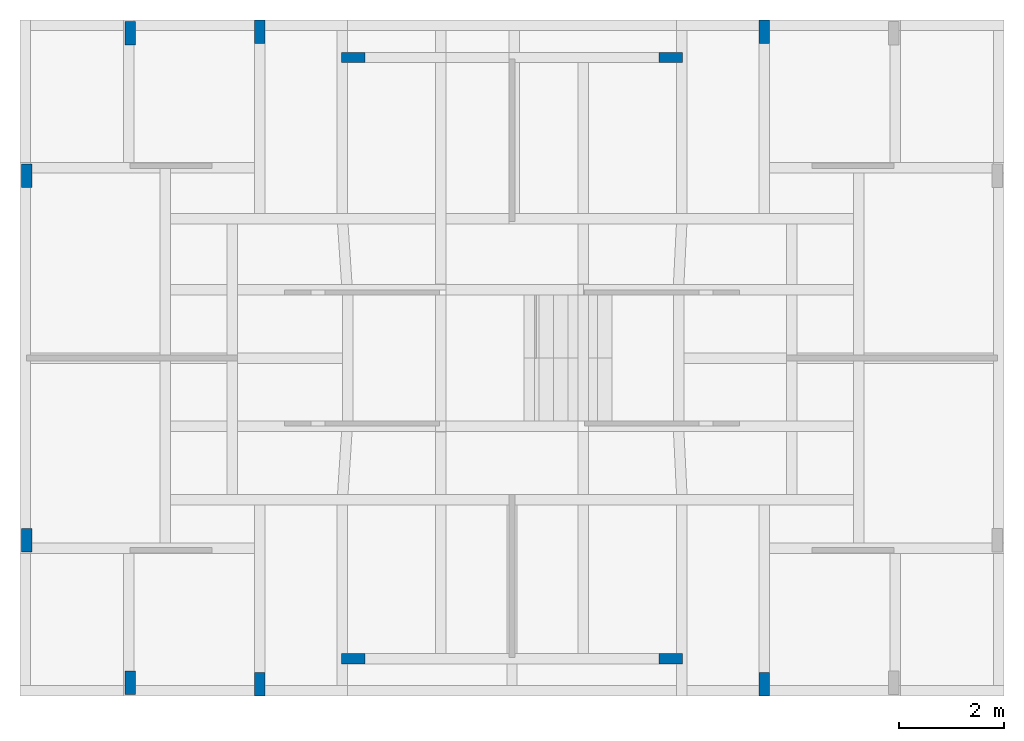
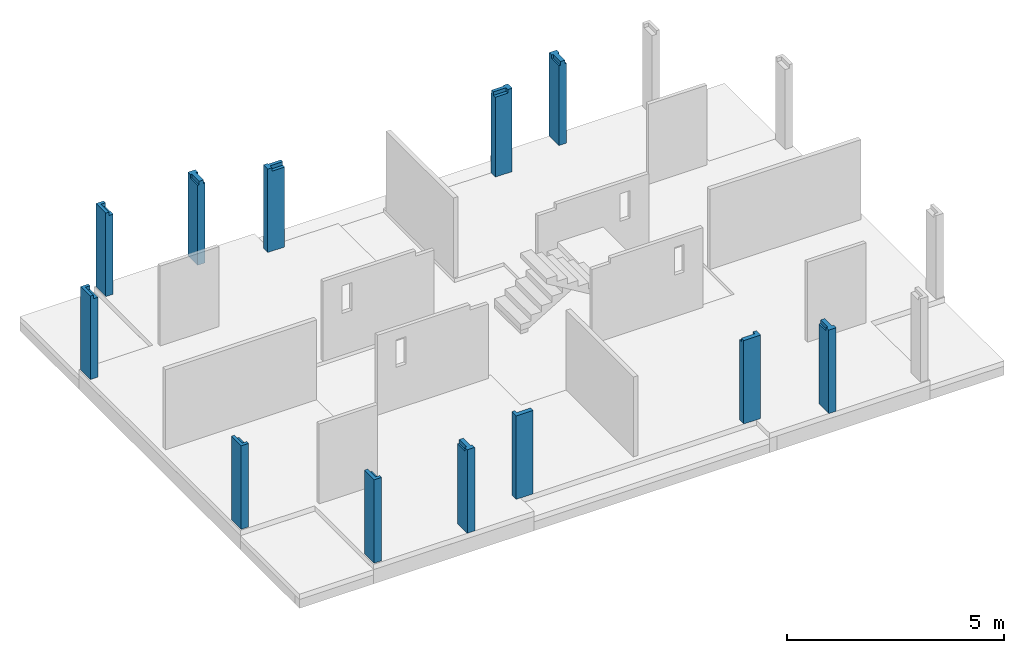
# One storey, part 6 of 7: 13 columns.
"""IFC4 building model written with IfcOpenShell, lengths in metres."""

from ifc_helpers import new_model, entity, si_unit, converted_unit, derived_unit, direction, frame, origin, place, context, subcontext, project, spatial, polygons, source, transform, mapped, material, type_object, type_shapes, element, save


model = new_model("IFC4")

# Units and contexts
model_context = context("Model", 3, precision=1e-05, world=origin(), true_north=direction((6.123031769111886e-17, 1.0)))
body_context = subcontext(model_context, "Body", "Model", "MODEL_VIEW")
ifc_project = project(units=[si_unit("LENGTHUNIT", "METRE"), si_unit("AREAUNIT", "SQUARE_METRE"), si_unit("VOLUMEUNIT", "CUBIC_METRE"), converted_unit("PLANEANGLEUNIT", "DEGREE", entity("IfcRatioMeasure", 0.017453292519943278), si_unit("PLANEANGLEUNIT", "RADIAN"), dimensions=[0, 0, 0, 0, 0, 0, 0]), si_unit("MASSUNIT", "GRAM", prefix="KILO"), derived_unit("MASSDENSITYUNIT", [(si_unit("MASSUNIT", "GRAM", prefix="KILO"), 1), (si_unit("LENGTHUNIT", "METRE"), -3)]), derived_unit("IONCONCENTRATIONUNIT", [(si_unit("MASSUNIT", "GRAM", prefix="KILO"), 1), (si_unit("LENGTHUNIT", "METRE"), -3)]), derived_unit("MOMENTOFINERTIAUNIT", [(si_unit("LENGTHUNIT", "METRE"), 4)]), si_unit("TIMEUNIT", "SECOND"), si_unit("FREQUENCYUNIT", "HERTZ"), si_unit("THERMODYNAMICTEMPERATUREUNIT", "DEGREE_CELSIUS"), derived_unit("THERMALTRANSMITTANCEUNIT", [(si_unit("MASSUNIT", "GRAM", prefix="KILO"), 1), (si_unit("THERMODYNAMICTEMPERATUREUNIT", "KELVIN"), -1), (si_unit("TIMEUNIT", "SECOND"), -3)]), derived_unit("THERMALCONDUCTANCEUNIT", [(si_unit("MASSUNIT", "GRAM", prefix="KILO"), 1), (si_unit("THERMODYNAMICTEMPERATUREUNIT", "KELVIN"), -1), (si_unit("TIMEUNIT", "SECOND"), -3), (si_unit("LENGTHUNIT", "METRE"), 1)]), derived_unit("VOLUMETRICFLOWRATEUNIT", [(si_unit("LENGTHUNIT", "METRE"), 3), (si_unit("TIMEUNIT", "SECOND"), -1)]), derived_unit("MASSFLOWRATEUNIT", [(si_unit("MASSUNIT", "GRAM", prefix="KILO"), 1), (si_unit("TIMEUNIT", "SECOND"), -1)]), derived_unit("ROTATIONALFREQUENCYUNIT", [(si_unit("TIMEUNIT", "SECOND"), -1)]), si_unit("ELECTRICCURRENTUNIT", "AMPERE"), si_unit("ELECTRICVOLTAGEUNIT", "VOLT"), si_unit("POWERUNIT", "WATT"), si_unit("FORCEUNIT", "NEWTON", prefix="KILO"), si_unit("ILLUMINANCEUNIT", "LUX"), si_unit("LUMINOUSFLUXUNIT", "LUMEN"), si_unit("LUMINOUSINTENSITYUNIT", "CANDELA"), derived_unit("USERDEFINED", [(si_unit("MASSUNIT", "GRAM", prefix="KILO"), -1), (si_unit("LENGTHUNIT", "METRE"), -2), (si_unit("TIMEUNIT", "SECOND"), 3), (si_unit("LUMINOUSFLUXUNIT", "LUMEN"), 1)]), derived_unit("USERDEFINED", [(si_unit("MASSUNIT", "GRAM", prefix="KILO"), 1), (si_unit("TIMEUNIT", "SECOND"), -3), (si_unit("LENGTHUNIT", "METRE"), 3), (si_unit("ELECTRICCURRENTUNIT", "AMPERE"), -2)]), derived_unit("SOUNDPOWERUNIT", [(si_unit("MASSUNIT", "GRAM", prefix="KILO"), 1), (si_unit("TIMEUNIT", "SECOND"), -3), (si_unit("LENGTHUNIT", "METRE"), 2)]), derived_unit("SOUNDPRESSUREUNIT", [(si_unit("MASSUNIT", "GRAM", prefix="KILO"), 1), (si_unit("LENGTHUNIT", "METRE"), -1), (si_unit("TIMEUNIT", "SECOND"), -2)]), derived_unit("LINEARVELOCITYUNIT", [(si_unit("LENGTHUNIT", "METRE"), 1), (si_unit("TIMEUNIT", "SECOND"), -1)]), si_unit("PRESSUREUNIT", "PASCAL"), derived_unit("USERDEFINED", [(si_unit("MASSUNIT", "GRAM", prefix="KILO"), 1), (si_unit("LENGTHUNIT", "METRE"), -2), (si_unit("TIMEUNIT", "SECOND"), -2)]), derived_unit("LINEARFORCEUNIT", [(si_unit("MASSUNIT", "GRAM", prefix="KILO"), 1), (si_unit("TIMEUNIT", "SECOND"), -2)]), derived_unit("PLANARFORCEUNIT", [(si_unit("MASSUNIT", "GRAM", prefix="KILO"), 1), (si_unit("LENGTHUNIT", "METRE"), -1), (si_unit("TIMEUNIT", "SECOND"), -2)]), derived_unit("SPECIFICHEATCAPACITYUNIT", [(si_unit("THERMODYNAMICTEMPERATUREUNIT", "KELVIN"), -1), (si_unit("LENGTHUNIT", "METRE"), 2), (si_unit("TIMEUNIT", "SECOND"), -2)]), derived_unit("HEATINGVALUEUNIT", [(si_unit("LENGTHUNIT", "METRE"), 2), (si_unit("TIMEUNIT", "SECOND"), -2)]), derived_unit("VAPORPERMEABILITYUNIT", [(si_unit("LENGTHUNIT", "METRE"), -1), (si_unit("TIMEUNIT", "SECOND"), 1)]), derived_unit("DYNAMICVISCOSITYUNIT", [(si_unit("MASSUNIT", "GRAM", prefix="KILO"), 1), (si_unit("TIMEUNIT", "SECOND"), -1), (si_unit("LENGTHUNIT", "METRE"), -1)]), derived_unit("THERMALEXPANSIONCOEFFICIENTUNIT", [(si_unit("THERMODYNAMICTEMPERATUREUNIT", "KELVIN"), -1)]), derived_unit("MODULUSOFELASTICITYUNIT", [(si_unit("MASSUNIT", "GRAM", prefix="KILO"), 1), (si_unit("LENGTHUNIT", "METRE"), -1), (si_unit("TIMEUNIT", "SECOND"), -2)]), derived_unit("ISOTHERMALMOISTURECAPACITYUNIT", [(si_unit("LENGTHUNIT", "METRE"), 3), (si_unit("MASSUNIT", "GRAM", prefix="KILO"), -1)]), derived_unit("MOISTUREDIFFUSIVITYUNIT", [(si_unit("TIMEUNIT", "SECOND"), -1), (si_unit("LENGTHUNIT", "METRE"), 2)])], contexts=[model_context])

# Site, building, storey
site_placement = place(None, origin())
site = spatial("IfcSite", under=ifc_project, at=site_placement, Name="Default", CompositionType="ELEMENT")
building_placement = place(site_placement, origin())
building = spatial("IfcBuilding", under=site, at=building_placement, Name="Las nubes", CompositionType="ELEMENT")
storey_placement = place(building_placement, origin())
storey = spatial("IfcBuildingStorey", under=building, at=storey_placement, Name="CIMENTACIÓN", CompositionType="ELEMENT", Elevation=-3.522347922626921e-13)

# Columns
ifc_material = material(Name="Concrete, Cast-in-Place gray", Category="Materials")
column_type_1 = type_object("IfcColumnType", Name="M_Concrete-Rectangular-Column:300 x 450mm", PredefinedType="COLUMN", material=ifc_material)
shared_shape_1 = source(origin(), body_context, "Body", "Tessellation", [
    polygons([(0.19999999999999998, 0.45000000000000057, 0.0), (0.19999999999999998, 5.414335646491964e-16, 0.0), (0.0, 5.414335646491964e-16, 0.0), (0.0, 0.45000000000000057, 0.0), (0.19999999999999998, 0.45000000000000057, 2.2500000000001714), (0.19999999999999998, 0.45000000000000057, 2.3500000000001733), (0.19999999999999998, 0.36499999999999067, 2.3500000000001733), (0.19999999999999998, 0.36499999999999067, 2.250000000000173), (0.19999999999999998, 5.414335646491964e-16, 2.250000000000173), (0.08499999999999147, 5.414335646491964e-16, 2.250000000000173), (0.08499999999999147, 5.414335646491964e-16, 2.3500000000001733), (0.0, 5.414335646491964e-16, 2.3500000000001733), (0.0, 5.414335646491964e-16, 2.2500000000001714), (0.0, 0.45000000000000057, 2.3500000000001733), (0.08499999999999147, 0.36499999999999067, 2.3500000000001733), (0.08499999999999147, 0.36499999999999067, 2.250000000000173)], [[[1, 2, 3, 4]], [[2, 1, 5, 6, 7, 8, 9]], [[3, 2, 9, 10, 11, 12, 13]], [[4, 3, 13, 12, 14]], [[1, 4, 14, 6, 5]], [[14, 12, 11, 15, 7, 6]], [[8, 16, 10, 9]], [[16, 15, 11, 10]], [[15, 16, 8, 7]]], closed=True),
])
type_shapes(column_type_1, [shared_shape_1])
column_1_placement = place(storey_placement, frame((-0.027499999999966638, -3.175000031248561, 0.0)))
element("IfcColumn", 1, at=column_1_placement, inside=storey, type_object=column_type_1, material=ifc_material, Name="M_Concrete-Rectangular-Column:300 x 450mm", ObjectType="M_Concrete-Rectangular-Column:300 x 450mm", PredefinedType="COLUMN", context=body_context, shape_type="MappedRepresentation", body=[
    mapped(shared_shape_1, transform((0.0, 0.0, 0.0), scale=1.0)),
])
column_type_2 = type_object("IfcColumnType", Name="M_Concrete-Rectangular-Column:300 x 450mm", PredefinedType="COLUMN", material=ifc_material)
shared_shape_2 = source(origin(), body_context, "Body", "Tessellation", [
    polygons([(0.19999999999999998, 0.45000000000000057, 0.0), (0.19999999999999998, 0.0, 0.0), (0.0, 0.0, 0.0), (0.0, 0.45000000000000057, 0.0), (0.19999999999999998, 0.45000000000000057, 2.250000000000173), (0.19999999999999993, 0.08499488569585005, 2.250000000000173), (0.19999999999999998, 0.08499488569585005, 2.3500000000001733), (0.19999999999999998, 0.0, 2.3500000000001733), (0.19999999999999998, 0.0, 2.2500000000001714), (0.0, 0.0, 2.3500000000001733), (0.0, 0.45000000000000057, 2.3500000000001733), (0.0, 0.45000000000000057, 2.2500000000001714), (0.08500000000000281, 0.45000000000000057, 2.3500000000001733), (0.08500000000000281, 0.45000000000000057, 2.250000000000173), (0.08500000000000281, 0.08499488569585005, 2.3500000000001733), (0.08500000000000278, 0.08499488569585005, 2.250000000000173)], [[[1, 2, 3, 4]], [[2, 1, 5, 6, 7, 8, 9]], [[3, 2, 9, 8, 10]], [[4, 3, 10, 11, 12]], [[1, 4, 12, 11, 13, 14, 5]], [[10, 8, 7, 15, 13, 11]], [[14, 16, 6, 5]], [[16, 15, 7, 6]], [[15, 16, 14, 13]]], closed=True),
])
type_shapes(column_type_2, [shared_shape_2])
column_2_placement = place(storey_placement, frame((-0.02749999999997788, -10.124994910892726, 0.0)))
element("IfcColumn", 2, at=column_2_placement, inside=storey, type_object=column_type_2, material=ifc_material, Name="M_Concrete-Rectangular-Column:300 x 450mm", ObjectType="M_Concrete-Rectangular-Column:300 x 450mm", PredefinedType="COLUMN", context=body_context, shape_type="MappedRepresentation", body=[
    mapped(shared_shape_2, transform((0.0, 0.0, 0.0), scale=1.0)),
])
column_type_3 = type_object("IfcColumnType", Name="M_Concrete-Rectangular-Column:300 x 450mm", PredefinedType="COLUMN", material=ifc_material)
shared_shape_3 = source(origin(), body_context, "Body", "Tessellation", [
    polygons([(0.2, 0.45, 0.0), (0.2, 6.767919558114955e-17, 0.0), (0.0, 6.767919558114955e-17, 0.0), (0.0, 0.45, 0.0), (0.2, 0.45, 2.3500000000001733), (0.2, 0.3649999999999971, 2.3500000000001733), (0.2, 0.3649999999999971, 2.250000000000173), (0.2, 6.767919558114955e-17, 2.250000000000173), (0.08500000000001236, 6.767919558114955e-17, 2.250000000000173), (0.08500000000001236, 6.767919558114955e-17, 2.3500000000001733), (0.0, 6.767919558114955e-17, 2.3500000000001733), (0.0, 6.767919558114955e-17, 2.2500000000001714), (0.0, 0.45, 2.3500000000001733), (0.08500000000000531, 0.3649999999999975, 2.3500000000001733), (0.08500000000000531, 0.3649999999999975, 2.250000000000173)], [[[1, 2, 3, 4]], [[2, 1, 5, 6, 7, 8]], [[3, 2, 8, 9, 10, 11, 12]], [[4, 3, 12, 11, 13]], [[1, 4, 13, 5]], [[13, 11, 10, 14, 6, 5]], [[15, 9, 8, 7]], [[14, 15, 7, 6]], [[15, 14, 10, 9]]], closed=True),
])
type_shapes(column_type_3, [shared_shape_3])
column_3_placement = place(storey_placement, frame((1.94749999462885, -0.46000002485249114, 0.0)))
element("IfcColumn", 3, at=column_3_placement, inside=storey, type_object=column_type_3, material=ifc_material, Name="M_Concrete-Rectangular-Column:300 x 450mm", ObjectType="M_Concrete-Rectangular-Column:300 x 450mm", PredefinedType="COLUMN", context=body_context, shape_type="MappedRepresentation", body=[
    mapped(shared_shape_3, transform((0.0, 0.0, 0.0), scale=1.0)),
])
column_type_4 = type_object("IfcColumnType", Name="M_Concrete-Rectangular-Column:300 x 450mm", PredefinedType="COLUMN", material=ifc_material)
shared_shape_4 = source(origin(), body_context, "Body", "Tessellation", [
    polygons([(0.2, 0.45000000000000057, 0.0), (0.2, 6.09112760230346e-16, 0.0), (0.0, 6.09112760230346e-16, 0.0), (0.0, 0.45000000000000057, 0.0), (0.2, 0.45000000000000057, 2.3500000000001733), (0.2, 0.42002052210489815, 2.3500000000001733), (0.2, 0.3350000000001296, 2.3500000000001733), (0.2, 0.3350000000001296, 2.250000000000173), (0.2, 6.09112760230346e-16, 2.250000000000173), (0.15749999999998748, 3.383959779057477e-16, 2.250000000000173), (0.15749999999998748, 6.09112760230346e-16, 2.3500000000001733), (0.04249999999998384, 6.09112760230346e-16, 2.3500000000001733), (0.04249999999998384, 6.09112760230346e-16, 2.250000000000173), (0.0, 6.09112760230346e-16, 2.250000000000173), (0.0, 0.33500000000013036, 2.250000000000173), (0.0, 0.33500000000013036, 2.3500000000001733), (0.0, 0.4200205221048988, 2.3500000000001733), (0.0, 0.45000000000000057, 2.3500000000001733), (0.042499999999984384, 0.3350000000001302, 2.3500000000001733), (0.15749999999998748, 0.3350000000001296, 2.3500000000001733), (0.042499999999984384, 0.3350000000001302, 2.250000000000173), (0.15749999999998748, 0.3350000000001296, 2.250000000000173)], [[[1, 2, 3, 4]], [[2, 1, 5, 6, 7, 8, 9]], [[3, 2, 9, 10, 11, 12, 13, 14]], [[4, 3, 14, 15, 16, 17, 18]], [[1, 4, 18, 5]], [[5, 18, 17, 16, 19, 12, 11, 20, 7, 6]], [[13, 21, 15, 14]], [[21, 19, 16, 15]], [[19, 21, 13, 12]], [[8, 22, 10, 9]], [[22, 20, 11, 10]], [[20, 22, 8, 7]]], closed=True),
])
type_shapes(column_type_4, [shared_shape_4])
column_4_placement = place(storey_placement, frame((4.409999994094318, -0.4300000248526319, 0.0)))
element("IfcColumn", 4, at=column_4_placement, inside=storey, type_object=column_type_4, material=ifc_material, Name="M_Concrete-Rectangular-Column:300 x 450mm", ObjectType="M_Concrete-Rectangular-Column:300 x 450mm", PredefinedType="COLUMN", context=body_context, shape_type="MappedRepresentation", body=[
    mapped(shared_shape_4, transform((0.0, 0.0, 0.0), scale=1.0)),
])
column_type_5 = type_object("IfcColumnType", Name="M_Concrete-Rectangular-Column:300 x 450mm", PredefinedType="COLUMN", material=ifc_material)
shared_shape_5 = source(origin(), body_context, "Body", "Tessellation", [
    polygons([(2.1657342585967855e-15, 0.20000000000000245, 0.0), (0.11499999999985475, 0.2000000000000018, 0.0), (0.45000000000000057, 0.2, 0.0), (0.45000000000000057, 0.0, 0.0), (1.0828671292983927e-15, 2.436451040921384e-15, 0.0), (1.0828671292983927e-15, 0.20000000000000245, 2.250000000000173), (2.1657342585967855e-15, 0.20000000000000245, 2.3500000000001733), (0.11500000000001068, 0.2000000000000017, 2.3500000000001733), (0.11500000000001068, 0.2000000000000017, 2.250000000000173), (0.45000000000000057, 0.2, 2.250000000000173), (0.45000000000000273, 0.16999999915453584, 2.250000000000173), (0.45000000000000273, 0.16999999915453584, 2.3500000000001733), (0.45000000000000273, 0.08500000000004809, 2.3500000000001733), (0.45000000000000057, 0.08500000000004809, 2.2500000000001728), (0.45000000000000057, 0.0, 2.250000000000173), (0.11500000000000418, 1.6243006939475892e-15, 2.250000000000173), (0.11500000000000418, 1.7596590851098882e-15, 2.3500000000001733), (1.0828671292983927e-15, 2.436451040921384e-15, 2.3500000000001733), (1.0828671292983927e-15, 2.436451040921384e-15, 2.250000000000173), (0.11500000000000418, 0.08500000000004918, 2.3500000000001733), (0.11500000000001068, 0.16999999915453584, 2.3500000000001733), (0.11500000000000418, 0.08500000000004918, 2.250000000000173), (0.11500000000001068, 0.16999999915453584, 2.250000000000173)], [[[1, 2, 3, 4, 5]], [[3, 2, 1, 6, 7, 8, 9, 10]], [[4, 3, 10, 11, 12, 13, 14, 15]], [[5, 4, 15, 16, 17, 18, 19]], [[1, 5, 19, 18, 7, 6]], [[7, 18, 17, 20, 13, 12, 21, 8]], [[14, 22, 16, 15]], [[22, 20, 17, 16]], [[20, 22, 14, 13]], [[23, 21, 12, 11]], [[21, 23, 9, 8]], [[9, 23, 11, 10]]], closed=True),
])
type_shapes(column_type_5, [shared_shape_5])
column_5_placement = place(storey_placement, frame((6.067499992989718, -0.7950000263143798, 0.0)))
element("IfcColumn", 5, at=column_5_placement, inside=storey, type_object=column_type_5, material=ifc_material, Name="M_Concrete-Rectangular-Column:300 x 450mm", ObjectType="M_Concrete-Rectangular-Column:300 x 450mm", PredefinedType="COLUMN", context=body_context, shape_type="MappedRepresentation", body=[
    mapped(shared_shape_5, transform((0.0, 0.0, 0.0), scale=1.0)),
])
column_type_6 = type_object("IfcColumnType", Name="M_Concrete-Rectangular-Column:300 x 450mm", PredefinedType="COLUMN", material=ifc_material)
shared_shape_6 = source(origin(), body_context, "Body", "Tessellation", [
    polygons([(0.0, 6.09112760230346e-16, 0.0), (0.0, 0.45000000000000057, 0.0), (0.2, 0.45000000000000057, 0.0), (0.2, 6.09112760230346e-16, 0.0), (0.0, 6.09112760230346e-16, 2.250000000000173), (0.0, 0.3350000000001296, 2.250000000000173), (0.0, 0.3350000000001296, 2.3500000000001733), (0.0, 0.41999999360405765, 2.3500000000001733), (0.0, 0.45000000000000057, 2.3500000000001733), (0.2, 6.09112760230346e-16, 2.250000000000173), (0.15749999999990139, 3.383959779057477e-16, 2.2500000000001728), (0.15749999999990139, 6.09112760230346e-16, 2.3500000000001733), (0.04249999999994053, 6.09112760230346e-16, 2.3500000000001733), (0.04249999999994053, 3.383959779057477e-16, 2.250000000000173), (0.2, 0.45000000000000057, 2.3500000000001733), (0.2, 0.41999999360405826, 2.3500000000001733), (0.2, 0.33500000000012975, 2.3500000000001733), (0.2, 0.33500000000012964, 2.250000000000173), (0.04249999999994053, 0.3350000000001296, 2.3500000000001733), (0.15749999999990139, 0.3350000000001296, 2.3500000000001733), (0.15749999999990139, 0.3350000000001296, 2.250000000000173), (0.04249999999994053, 0.3350000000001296, 2.250000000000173)], [[[1, 2, 3, 4]], [[2, 1, 5, 6, 7, 8, 9]], [[1, 4, 10, 11, 12, 13, 14, 5]], [[4, 3, 15, 16, 17, 18, 10]], [[3, 2, 9, 15]], [[15, 9, 8, 7, 19, 13, 12, 20, 17, 16]], [[18, 21, 11, 10]], [[20, 21, 18, 17]], [[21, 20, 12, 11]], [[14, 22, 6, 5]], [[22, 19, 7, 6]], [[19, 22, 14, 13]]], closed=True),
])
type_shapes(column_type_6, [shared_shape_6])
column_6_placement = place(storey_placement, frame((14.035000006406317, -0.4300000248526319, 0.0)))
element("IfcColumn", 6, at=column_6_placement, inside=storey, type_object=column_type_6, material=ifc_material, Name="M_Concrete-Rectangular-Column:300 x 450mm", ObjectType="M_Concrete-Rectangular-Column:300 x 450mm", PredefinedType="COLUMN", context=body_context, shape_type="MappedRepresentation", body=[
    mapped(shared_shape_6, transform((0.0, 0.0, 0.0), scale=1.0)),
])
column_type_7 = type_object("IfcColumnType", Name="M_Concrete-Rectangular-Column:300 x 450mm", PredefinedType="COLUMN", material=ifc_material)
shared_shape_7 = source(origin(), body_context, "Body", "Tessellation", [
    polygons([(0.0, 0.2, 0.0), (0.3350000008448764, 0.2000000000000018, 0.0), (0.4500000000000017, 0.20000000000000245, 0.0), (0.4500000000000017, 2.436451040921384e-15, 0.0), (0.0, 0.0, 0.0), (0.0, 0.2, 2.250000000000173), (0.3350000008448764, 0.2000000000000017, 2.250000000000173), (0.3350000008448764, 0.20000000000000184, 2.3500000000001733), (0.4500000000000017, 0.20000000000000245, 2.3500000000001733), (0.4500000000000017, 0.20000000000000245, 2.250000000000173), (0.0, 0.0, 2.250000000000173), (0.0, 0.08500000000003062, 2.250000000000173), (0.0, 0.08500000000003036, 2.3500000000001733), (0.0, 0.16999999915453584, 2.3500000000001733), (0.0, 0.16999999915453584, 2.250000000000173), (0.4500000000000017, 2.436451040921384e-15, 2.250000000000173), (0.4500000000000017, 2.436451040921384e-15, 2.3500000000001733), (0.334999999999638, 1.7596590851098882e-15, 2.3500000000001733), (0.3349999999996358, 1.6243006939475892e-15, 2.250000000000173), (0.3350000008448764, 0.16999999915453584, 2.3500000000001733), (0.334999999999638, 0.08500000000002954, 2.3500000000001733), (0.3350000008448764, 0.16999999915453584, 2.250000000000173), (0.334999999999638, 0.08500000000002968, 2.250000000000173)], [[[1, 2, 3, 4, 5]], [[3, 2, 1, 6, 7, 8, 9, 10]], [[1, 5, 11, 12, 13, 14, 15, 6]], [[5, 4, 16, 17, 18, 19, 11]], [[4, 3, 10, 9, 17, 16]], [[17, 9, 8, 20, 14, 13, 21, 18]], [[22, 7, 6, 15]], [[23, 21, 13, 12]], [[21, 23, 19, 18]], [[20, 22, 15, 14]], [[22, 20, 8, 7]], [[19, 23, 12, 11]]], closed=True),
])
type_shapes(column_type_7, [shared_shape_7])
column_7_placement = place(storey_placement, frame((12.127500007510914, -0.7950000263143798, 0.0)))
element("IfcColumn", 7, at=column_7_placement, inside=storey, type_object=column_type_7, material=ifc_material, Name="M_Concrete-Rectangular-Column:300 x 450mm", ObjectType="M_Concrete-Rectangular-Column:300 x 450mm", PredefinedType="COLUMN", context=body_context, shape_type="MappedRepresentation", body=[
    mapped(shared_shape_7, transform((0.0, 0.0, 0.0), scale=1.0)),
])
column_type_8 = type_object("IfcColumnType", Name="M_Concrete-Rectangular-Column:300 x 450mm", PredefinedType="COLUMN", material=ifc_material)
shared_shape_8 = source(origin(), body_context, "Body", "Tessellation", [
    polygons([(0.20000000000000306, 0.4500000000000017, 0.0), (0.19999999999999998, 2.1657342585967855e-15, 0.0), (4.229949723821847e-18, 2.1657342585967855e-15, 0.0), (3.0794033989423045e-15, 0.4500000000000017, 0.0), (0.20000000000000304, 0.45000000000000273, 2.250000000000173), (0.2000000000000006, 0.08499999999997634, 2.250000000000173), (0.2000000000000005, 0.08499999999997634, 2.3500000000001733), (0.19999999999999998, 0.0, 2.3500000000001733), (3.0751734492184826e-15, 0.45000000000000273, 2.2500000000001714), (3.0794033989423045e-15, 0.4500000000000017, 2.3500000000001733), (0.08500000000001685, 0.4500000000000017, 2.3500000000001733), (0.08500000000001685, 0.4500000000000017, 2.250000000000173), (4.229949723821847e-18, 2.1657342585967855e-15, 2.3500000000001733), (0.08500000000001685, 0.08499999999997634, 2.3500000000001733), (0.08500000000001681, 0.08499999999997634, 2.250000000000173)], [[[1, 2, 3, 4]], [[2, 1, 5, 6, 7, 8]], [[1, 4, 9, 10, 11, 12, 5]], [[4, 3, 13, 10, 9]], [[3, 2, 8, 13]], [[10, 13, 8, 7, 14, 11]], [[12, 15, 6, 5]], [[15, 14, 7, 6]], [[14, 15, 12, 11]]], closed=True),
])
type_shapes(column_type_8, [shared_shape_8])
column_8_placement = place(storey_placement, frame((-0.027499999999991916, -10.125000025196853, 0.0)))
element("IfcColumn", 8, at=column_8_placement, inside=storey, type_object=column_type_8, material=ifc_material, Name="M_Concrete-Rectangular-Column:300 x 450mm", ObjectType="M_Concrete-Rectangular-Column:300 x 450mm", PredefinedType="COLUMN", context=body_context, shape_type="MappedRepresentation", body=[
    mapped(shared_shape_8, transform((0.0, 0.0, 0.0), scale=1.0)),
])
column_type_9 = type_object("IfcColumnType", Name="M_Concrete-Rectangular-Column:300 x 450mm", PredefinedType="COLUMN", material=ifc_material)
shared_shape_9 = source(origin(), body_context, "Body", "Tessellation", [
    polygons([(0.20000000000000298, 0.4500000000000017, 0.0), (0.19999999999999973, 0.0, 0.0), (-2.707167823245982e-16, 2.1657342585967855e-15, 0.0), (2.97788460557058e-15, 0.4500000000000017, 0.0), (0.20000000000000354, 0.45000000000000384, 2.250000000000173), (0.20000000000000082, 0.08499999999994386, 2.250000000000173), (0.20000000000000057, 0.08499999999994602, 2.3500000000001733), (0.19999999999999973, 0.0, 2.3500000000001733), (0.2, 2.1657342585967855e-15, 2.2500000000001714), (3.2486013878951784e-15, 0.45000000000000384, 2.2500000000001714), (2.97788460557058e-15, 0.4500000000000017, 2.3500000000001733), (0.08500000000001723, 0.4500000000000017, 2.3500000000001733), (0.08500000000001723, 0.45000000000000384, 2.250000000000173), (-2.707167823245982e-16, 2.1657342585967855e-15, 2.3500000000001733), (0.08500000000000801, 0.08499999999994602, 2.3500000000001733), (0.08500000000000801, 0.08499999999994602, 2.250000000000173)], [[[1, 2, 3, 4]], [[2, 1, 5, 6, 7, 8, 9]], [[1, 4, 10, 11, 12, 13, 5]], [[4, 3, 14, 11, 10]], [[3, 2, 9, 8, 14]], [[11, 14, 8, 7, 15, 12]], [[16, 6, 5, 13]], [[16, 15, 7, 6]], [[15, 16, 13, 12]]], closed=True),
])
type_shapes(column_type_9, [shared_shape_9])
column_9_placement = place(storey_placement, frame((1.9474999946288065, -12.840000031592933, 0.0)))
element("IfcColumn", 9, at=column_9_placement, inside=storey, type_object=column_type_9, material=ifc_material, Name="M_Concrete-Rectangular-Column:300 x 450mm", ObjectType="M_Concrete-Rectangular-Column:300 x 450mm", PredefinedType="COLUMN", context=body_context, shape_type="MappedRepresentation", body=[
    mapped(shared_shape_9, transform((0.0, 0.0, 0.0), scale=1.0)),
])
column_type_10 = type_object("IfcColumnType", Name="M_Concrete-Rectangular-Column:300 x 450mm", PredefinedType="COLUMN", material=ifc_material)
shared_shape_10 = source(origin(), body_context, "Body", "Tessellation", [
    polygons([(0.20000000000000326, 0.4499999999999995, 0.0), (0.2, -2.1657342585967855e-15, 0.0), (0.0, 0.0, 0.0), (3.2486013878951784e-15, 0.4499999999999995, 0.0), (0.20000000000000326, 0.4499999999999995, 2.250000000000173), (0.2000000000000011, 0.11499999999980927, 2.250000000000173), (0.20000000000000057, 0.11499999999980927, 2.3500000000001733), (0.2, 0.029999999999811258, 2.3500000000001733), (0.2, -2.1657342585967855e-15, 2.3500000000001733), (3.2486013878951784e-15, 0.4499999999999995, 2.250000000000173), (0.042499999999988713, 0.4500000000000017, 2.250000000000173), (0.04249999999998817, 0.4499999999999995, 2.3500000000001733), (0.15750000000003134, 0.4499999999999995, 2.3500000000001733), (0.15750000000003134, 0.4500000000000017, 2.250000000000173), (0.0, 0.0, 2.3500000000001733), (0.0, 0.029999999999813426, 2.3500000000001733), (5.414335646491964e-16, 0.1149999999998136, 2.3500000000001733), (5.414335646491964e-16, 0.1149999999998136, 2.250000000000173), (0.15750000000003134, 0.11499999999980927, 2.3500000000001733), (0.04249999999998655, 0.1149999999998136, 2.3500000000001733), (0.04249999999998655, 0.1149999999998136, 2.250000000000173), (0.15750000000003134, 0.11499999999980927, 2.250000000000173)], [[[1, 2, 3, 4]], [[2, 1, 5, 6, 7, 8, 9]], [[1, 4, 10, 11, 12, 13, 14, 5]], [[4, 3, 15, 16, 17, 18, 10]], [[3, 2, 9, 15]], [[15, 9, 8, 7, 19, 13, 12, 20, 17, 16]], [[18, 21, 11, 10]], [[20, 21, 18, 17]], [[21, 20, 12, 11]], [[14, 22, 6, 5]], [[22, 19, 7, 6]], [[19, 22, 14, 13]]], closed=True),
])
type_shapes(column_type_10, [shared_shape_10])
column_10_placement = place(storey_placement, frame((4.4099999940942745, -12.870000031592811, 0.0)))
element("IfcColumn", 10, at=column_10_placement, inside=storey, type_object=column_type_10, material=ifc_material, Name="M_Concrete-Rectangular-Column:300 x 450mm", ObjectType="M_Concrete-Rectangular-Column:300 x 450mm", PredefinedType="COLUMN", context=body_context, shape_type="MappedRepresentation", body=[
    mapped(shared_shape_10, transform((0.0, 0.0, 0.0), scale=1.0)),
])
column_type_11 = type_object("IfcColumnType", Name="M_Concrete-Rectangular-Column:300 x 450mm", PredefinedType="COLUMN", material=ifc_material)
shared_shape_11 = source(origin(), body_context, "Body", "Tessellation", [
    polygons([(0.4499999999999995, 0.0, 0.0), (0.1149999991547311, 0.0, 0.0), (0.0, 0.0, 0.0), (0.0, 0.2, 0.0), (0.4499999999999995, 0.2, 0.0), (0.4499999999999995, 0.0, 2.3500000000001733), (0.08500000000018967, 0.0, 2.3500000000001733), (0.0, 0.0, 2.3500000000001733), (0.0, 0.0, 2.250000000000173), (0.4499999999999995, 0.2, 2.250000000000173), (0.4499999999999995, 0.11500000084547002, 2.250000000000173), (0.4499999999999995, 0.11500000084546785, 2.3500000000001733), (0.0, 0.2, 2.250000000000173), (0.0, 0.2, 2.3500000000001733), (0.08500000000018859, 0.2, 2.3500000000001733), (0.08500000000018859, 0.2, 2.2500000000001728), (0.08500000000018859, 0.11500000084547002, 2.3500000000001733), (0.08500000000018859, 0.11500000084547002, 2.250000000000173)], [[[1, 2, 3, 4, 5]], [[3, 2, 1, 6, 7, 8, 9]], [[1, 5, 10, 11, 12, 6]], [[5, 4, 13, 14, 15, 16, 10]], [[4, 3, 9, 8, 14, 13]], [[8, 7, 6, 12, 17, 15, 14]], [[16, 18, 11, 10]], [[18, 17, 12, 11]], [[17, 18, 16, 15]]], closed=True),
])
type_shapes(column_type_11, [shared_shape_11])
column_11_placement = place(storey_placement, frame((6.067499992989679, -12.255000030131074, 0.0)))
element("IfcColumn", 11, at=column_11_placement, inside=storey, type_object=column_type_11, material=ifc_material, Name="M_Concrete-Rectangular-Column:300 x 450mm", ObjectType="M_Concrete-Rectangular-Column:300 x 450mm", PredefinedType="COLUMN", context=body_context, shape_type="MappedRepresentation", body=[
    mapped(shared_shape_11, transform((0.0, 0.0, 0.0), scale=1.0)),
])
column_type_12 = type_object("IfcColumnType", Name="M_Concrete-Rectangular-Column:300 x 450mm", PredefinedType="COLUMN", material=ifc_material)
shared_shape_12 = source(origin(), body_context, "Body", "Tessellation", [
    polygons([(0.0, 0.0, 0.0), (2.1657342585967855e-15, 0.4499999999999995, 0.0), (0.20000000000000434, 0.4499999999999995, 0.0), (0.2, -2.1657342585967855e-15, 0.0), (0.0, 0.0, 2.3500000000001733), (0.0, 0.030001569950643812, 2.3500000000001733), (0.0, 0.11499999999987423, 2.3500000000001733), (2.1657342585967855e-15, 0.11499999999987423, 2.250000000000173), (6.497202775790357e-15, 0.4499999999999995, 2.250000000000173), (0.04249999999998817, 0.4499999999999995, 2.250000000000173), (0.04249999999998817, 0.4499999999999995, 2.3500000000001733), (0.15749999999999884, 0.44999999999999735, 2.3500000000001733), (0.15749999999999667, 0.4499999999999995, 2.250000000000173), (0.20000000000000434, 0.4499999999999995, 2.250000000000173), (0.2, 0.11499999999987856, 2.250000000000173), (0.2, 0.11499999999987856, 2.3500000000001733), (0.2, 0.03000156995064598, 2.3500000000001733), (0.2, -2.1657342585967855e-15, 2.3500000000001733), (0.15749999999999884, 0.11499999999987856, 2.3500000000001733), (0.04249999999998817, 0.11499999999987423, 2.3500000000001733), (0.15749999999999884, 0.11499999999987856, 2.250000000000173), (0.04249999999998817, 0.11499999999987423, 2.250000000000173)], [[[1, 2, 3, 4]], [[2, 1, 5, 6, 7, 8, 9]], [[3, 2, 9, 10, 11, 12, 13, 14]], [[4, 3, 14, 15, 16, 17, 18]], [[1, 4, 18, 5]], [[5, 18, 17, 16, 19, 12, 11, 20, 7, 6]], [[13, 21, 15, 14]], [[21, 19, 16, 15]], [[19, 21, 13, 12]], [[22, 10, 9, 8]], [[20, 22, 8, 7]], [[22, 20, 11, 10]]], closed=True),
])
type_shapes(column_type_12, [shared_shape_12])
column_12_placement = place(storey_placement, frame((14.035000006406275, -12.870000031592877, 0.0)))
element("IfcColumn", 12, at=column_12_placement, inside=storey, type_object=column_type_12, material=ifc_material, Name="M_Concrete-Rectangular-Column:300 x 450mm", ObjectType="M_Concrete-Rectangular-Column:300 x 450mm", PredefinedType="COLUMN", context=body_context, shape_type="MappedRepresentation", body=[
    mapped(shared_shape_12, transform((0.0, 0.0, 0.0), scale=1.0)),
])
column_type_13 = type_object("IfcColumnType", Name="M_Concrete-Rectangular-Column:300 x 450mm", PredefinedType="COLUMN", material=ifc_material)
shared_shape_13 = source(origin(), body_context, "Body", "Tessellation", [
    polygons([(0.45000000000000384, 0.0, 0.0), (0.33500000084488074, 2.1657342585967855e-15, 0.0), (2.1657342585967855e-15, 6.497202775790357e-15, 0.0), (6.497202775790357e-15, 0.2000000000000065, 0.0), (0.450000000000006, 0.2, 0.0), (0.4500000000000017, 0.0, 2.250000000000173), (0.45000000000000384, 0.0, 2.3500000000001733), (0.3649999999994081, 0.0, 2.3500000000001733), (2.1657342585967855e-15, 6.497202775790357e-15, 2.3500000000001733), (4.331468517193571e-15, 0.1150000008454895, 2.3500000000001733), (4.331468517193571e-15, 0.1150000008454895, 2.250000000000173), (4.331468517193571e-15, 0.20000000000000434, 2.250000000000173), (0.36499999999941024, 0.20000000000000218, 2.250000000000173), (0.36499999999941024, 0.2, 2.3500000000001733), (0.450000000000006, 0.2, 2.3500000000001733), (0.450000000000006, 0.2, 2.250000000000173), (0.36499999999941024, 0.11500000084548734, 2.3500000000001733), (0.36499999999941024, 0.11500000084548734, 2.250000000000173)], [[[1, 2, 3, 4, 5]], [[3, 2, 1, 6, 7, 8, 9]], [[4, 3, 9, 10, 11, 12]], [[5, 4, 12, 13, 14, 15, 16]], [[1, 5, 16, 15, 7, 6]], [[9, 8, 7, 15, 14, 17, 10]], [[11, 18, 13, 12]], [[18, 17, 14, 13]], [[17, 18, 11, 10]]], closed=True),
])
type_shapes(column_type_13, [shared_shape_13])
column_13_placement = place(storey_placement, frame((12.127500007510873, -12.255000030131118, 0.0)))
element("IfcColumn", 13, at=column_13_placement, inside=storey, type_object=column_type_13, material=ifc_material, Name="M_Concrete-Rectangular-Column:300 x 450mm", ObjectType="M_Concrete-Rectangular-Column:300 x 450mm", PredefinedType="COLUMN", context=body_context, shape_type="MappedRepresentation", body=[
    mapped(shared_shape_13, transform((0.0, 0.0, 0.0), scale=1.0)),
])

save(model, "model.ifc")
